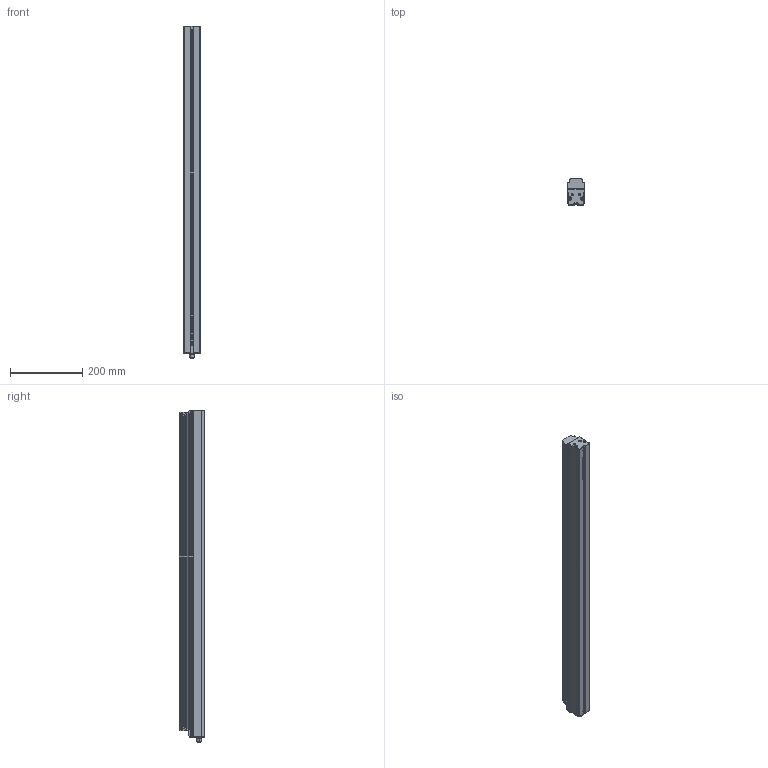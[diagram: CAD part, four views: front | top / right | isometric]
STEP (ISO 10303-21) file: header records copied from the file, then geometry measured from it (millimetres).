
FILE_DESCRIPTION (( 'STEP AP214' ), '1' );
FILE_NAME ('ELINE-EC-875-xxx-xx_CLIENT.STEP', '2026-06-08T12:10:31', ( '' ), ( '' ), 'SwSTEP 2.0', 'SolidWorks 2025', '' );
FILE_SCHEMA (( 'AUTOMOTIVE_DESIGN' ));
Length unit declared in the file: millimetre
Products named in the file (3): ELINE-EC-xxx-xxx-xx_CLIENT_875; 1-X2014-01-3-A_1; ELINE-EC-875-xxx-xx_CLIENT
Assembly tree (5 placements, depth 2):
  ELINE-EC-875-xxx-xx_CLIENT
    ELINE-EC-xxx-xxx-xx_CLIENT_875
    1-X2014-01-3-A_1  x4
Bounding box: 47.7 x 70.9 x 920.05 mm (x, y, z)
Volume: 2546685.8 mm3; surface area: 244757.6 mm2
Topology: 5 solids, 5 shells, 980 faces, 2547 edges, 1643 vertices
Faces by surface type: plane 460, cylinder 294, bspline 140, torus 64, cone 18, sphere 4
Entity records: 32588 total; most frequent: CARTESIAN_POINT 10871, ORIENTED_EDGE 4684, DIRECTION 4136, EDGE_CURVE 2342, VERTEX_POINT 1518, AXIS2_PLACEMENT_3D 1410, LINE 1316, VECTOR 1316
